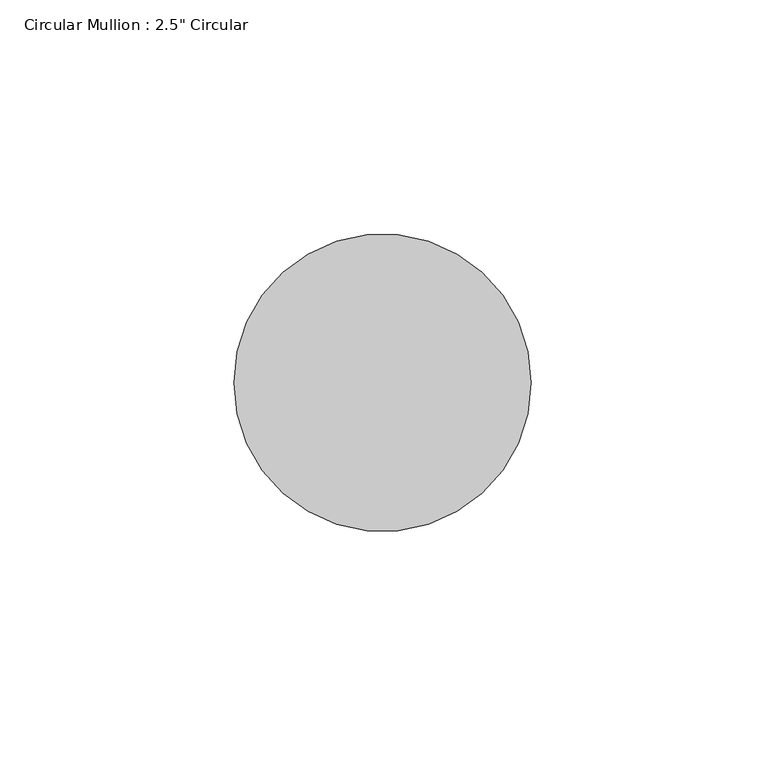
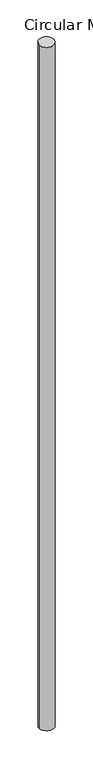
"""IFC4 building model written with IfcOpenShell, lengths in millimetres: member geometry."""

from ifc_helpers import new_model, si_unit, frame, origin, place, context, project, spatial, ellipse_curve, source, transform, mapped, element, save
from ifc_brep_helpers import plane_surface, cylinder_surface, advanced_brep


def member_d9327cc8(model_context):
    return source(origin(), model_context, "Body", "AdvancedBrep", [
        advanced_brep(
        [(-63.5, 0.0, -2.116657), (0.0, 0.0, 0.0), (0.0, 0.0, -3069.5721295), (-63.5, 0.0, -3067.7945046)],
        [
            (0, 1, ellipse_curve(frame((-31.75, 0.0, -1.0583285), z_axis=(0.03325716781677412, 0.05873296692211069, -0.997719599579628), x_axis=(0.4916102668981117, 0.8681956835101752, 0.067495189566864)), 31.8225682, 31.75)),
            (1, 2),
            (2, 3, ellipse_curve(frame((-31.75, 0.0, -3068.683317), z_axis=(0.027962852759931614, 0.038062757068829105, 0.9988840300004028), x_axis=(-0.5913934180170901, -0.8049988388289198, 0.04723022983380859)), 31.7854716, 31.75)),
            (3, 0),
            (1, 0, ellipse_curve(frame((-31.75, 0.0, -1.0583285), z_axis=(0.03325716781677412, 0.05873296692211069, -0.997719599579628), x_axis=(0.4916102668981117, 0.8681956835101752, 0.067495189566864)), 31.8225682, 31.75)),
            (3, 2, ellipse_curve(frame((-31.75, 0.0, -3068.683317), z_axis=(0.027962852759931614, 0.038062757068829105, 0.9988840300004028), x_axis=(-0.5913934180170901, -0.8049988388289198, 0.04723022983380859)), 31.7854716, 31.75)),
        ],
        [
            cylinder_surface(frame((-31.75, 0.0, 0.0), z_axis=(0.0, 0.0, 1.0), x_axis=(1.0, 0.0, 0.0)), 31.75),
            plane_surface(frame((265.2308769, -150.185292, 0.0), z_axis=(-0.03325716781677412, -0.05873296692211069, 0.997719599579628), x_axis=(-0.49161026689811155, -0.8681956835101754, -0.06749518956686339))),
            plane_surface(frame((245.6377705, -180.4580996, -3069.5721295), z_axis=(-0.027962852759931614, -0.038062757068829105, -0.9988840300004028), x_axis=(-0.59139341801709, -0.8049988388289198, 0.04723022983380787))),
        ],
        [
            (0, [[1, 2, 3, 4]]),
            (0, [[5, -4, 6, -2]]),
            (1, [[-1, -5]]),
            (2, [[-6, -3]]),
        ],
    ),
    ])


if __name__ == "__main__":
    model = new_model("IFC4")
    model_context = context("Model", 3, world=origin())
    ifc_project = project(units=[si_unit("LENGTHUNIT", "METRE", prefix="MILLI")], contexts=[model_context])
    site = spatial("IfcSite", under=ifc_project)
    building = spatial("IfcBuilding", under=site)
    placement = place(None, origin())
    member_shape = member_d9327cc8(model_context)
    element("IfcMember", 1, ObjectType="Circular Mullion : 2.5\" Circular", at=placement, inside=building, context=model_context, shape_type="MappedRepresentation", body=[
        mapped(member_shape, transform((0.0, 0.0, 0.0), x_axis=(1.0, 0.0, 0.0), y_axis=(0.0, 1.0, 0.0), z_axis=(0.0, 0.0, 1.0))),
    ])
    save(model, "model.ifc")
